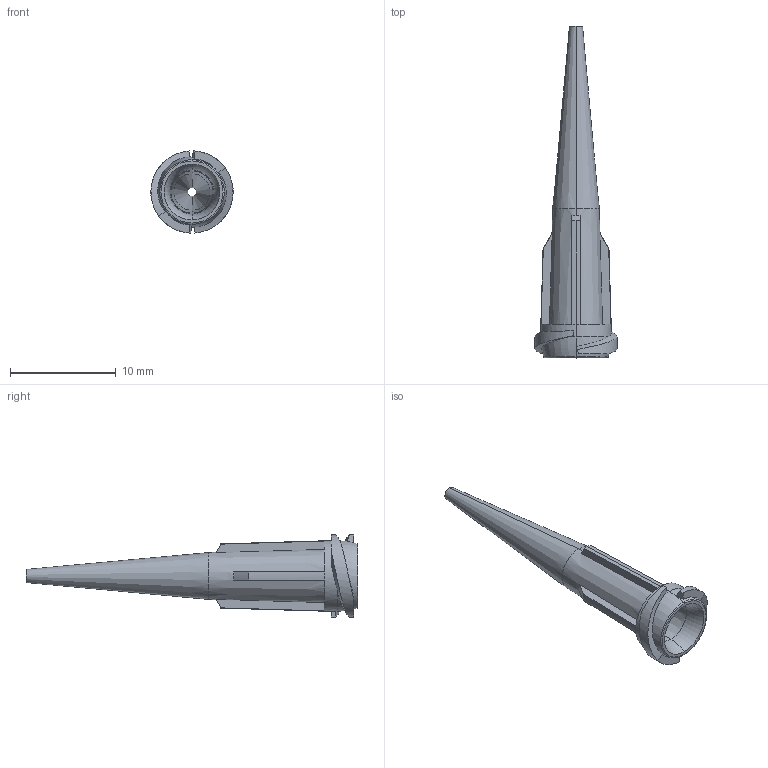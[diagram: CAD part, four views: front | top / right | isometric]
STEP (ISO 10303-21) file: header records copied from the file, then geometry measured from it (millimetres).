
FILE_DESCRIPTION (( 'STEP AP214' ), '1' );
FILE_NAME ('NORDSONEFD-7018149 TIP 18GA TT .033 ESD SAFE BLK.STEP', '2020-08-07T05:38:21', ( '' ), ( '' ), 'SwSTEP 2.0', 'SolidWorks 2020', '' );
FILE_SCHEMA (( 'AUTOMOTIVE_DESIGN' ));
Length unit declared in the file: inch
Products named in the file (1): NORDSONEFD-7018149  TIP 18GA TT .033 ESD SAFE BLK
Bounding box: 7.77 x 31.37 x 7.77 mm (x, y, z)
Volume: 213.5 mm3; surface area: 783 mm2
Topology: 1 solids, 1 shells, 58 faces, 144 edges, 88 vertices
Faces by surface type: plane 22, cone 14, bspline 12, torus 8, cylinder 2
Entity records: 2112 total; most frequent: CARTESIAN_POINT 801, ORIENTED_EDGE 288, DIRECTION 246, EDGE_CURVE 144, AXIS2_PLACEMENT_3D 103, VERTEX_POINT 88, EDGE_LOOP 60, FACE_OUTER_BOUND 58
